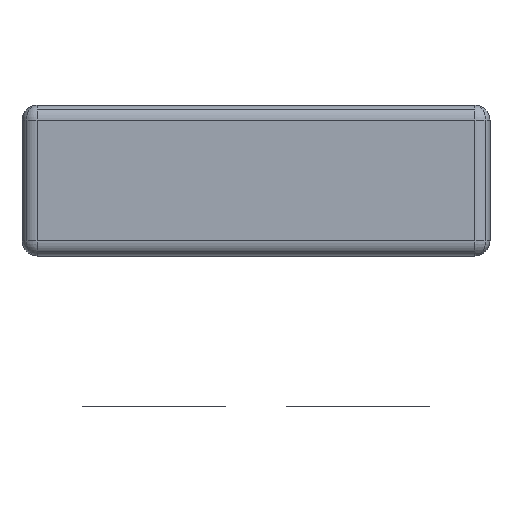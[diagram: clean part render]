
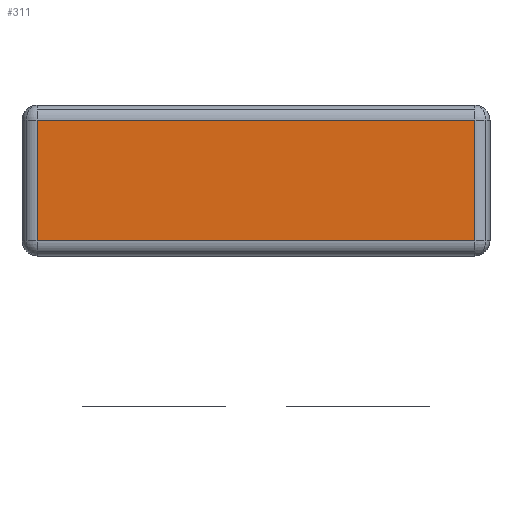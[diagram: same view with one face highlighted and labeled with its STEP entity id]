
A CAD part, front view. The second image highlights one B-rep face of the part: STEP entity #311.
In plain terms, the highlighted planar face has unit normal (0, -1, 0).
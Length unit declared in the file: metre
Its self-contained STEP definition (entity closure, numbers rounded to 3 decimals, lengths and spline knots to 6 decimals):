
#311=ADVANCED_FACE('0:402',(#794),#795,.T.);
#794=FACE_OUTER_BOUND('',#1321,.T.);
#795=PLANE('',#1322);
#1321=EDGE_LOOP('',(#3280,#3281,#3282,#3283));
#1322=AXIS2_PLACEMENT_3D('',#3284,#3285,#3286);
#3280=ORIENTED_EDGE('',*,*,#3571,.F.);
#3281=ORIENTED_EDGE('',*,*,#4019,.F.);
#3282=ORIENTED_EDGE('',*,*,#4020,.F.);
#3283=ORIENTED_EDGE('',*,*,#3465,.F.);
#3284=CARTESIAN_POINT('',(0.00775,0.0,0.0));
#3285=DIRECTION('',(0.0,-1.0,0.0));
#3286=DIRECTION('',(1.0,0.0,0.0));
#3465=EDGE_CURVE('4:33',#4133,#4135,#4136,.T.);
#3571=EDGE_CURVE('4:530',#4333,#4133,#4340,.T.);
#4019=EDGE_CURVE('4:24',#4112,#4333,#5025,.T.);
#4020=EDGE_CURVE('4:497',#4135,#4112,#5026,.T.);
#4112=VERTEX_POINT('',#5171);
#4133=VERTEX_POINT('',#5199);
#4135=VERTEX_POINT('',#5201);
#4136=LINE('',#5202,#5203);
#4333=VERTEX_POINT('',#5448);
#4340=LINE('',#5456,#5457);
#5025=LINE('',#6438,#6439);
#5026=LINE('',#6440,#6441);
#5171=CARTESIAN_POINT('',(0.015,0.0,0.0025));
#5199=CARTESIAN_POINT('',(0.0005,0.0,-0.0015));
#5201=CARTESIAN_POINT('',(0.0005,0.0,0.0025));
#5202=CARTESIAN_POINT('',(0.0005,0.0,0.0));
#5203=VECTOR('',#6640,1.0);
#5448=CARTESIAN_POINT('',(0.015,0.0,-0.0015));
#5456=CARTESIAN_POINT('',(0.003875,0.0,-0.0015));
#5457=VECTOR('',#6858,1.0);
#6438=CARTESIAN_POINT('',(0.015,0.0,0.0));
#6439=VECTOR('',#7664,1.0);
#6440=CARTESIAN_POINT('',(0.003875,0.0,0.0025));
#6441=VECTOR('',#7665,1.0);
#6640=DIRECTION('',(0.0,0.0,1.0));
#6858=DIRECTION('',(-1.0,0.0,0.0));
#7664=DIRECTION('',(0.0,-0.0,-1.0));
#7665=DIRECTION('',(1.0,-0.0,-0.0));
